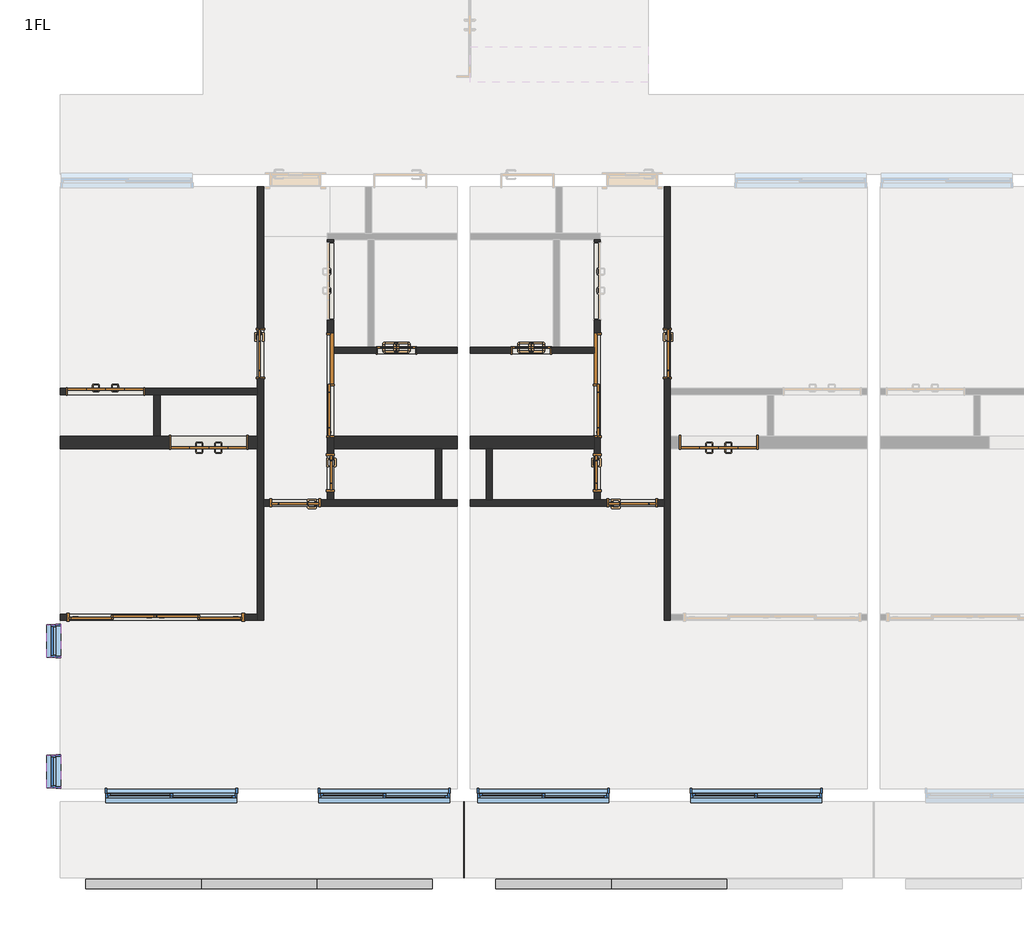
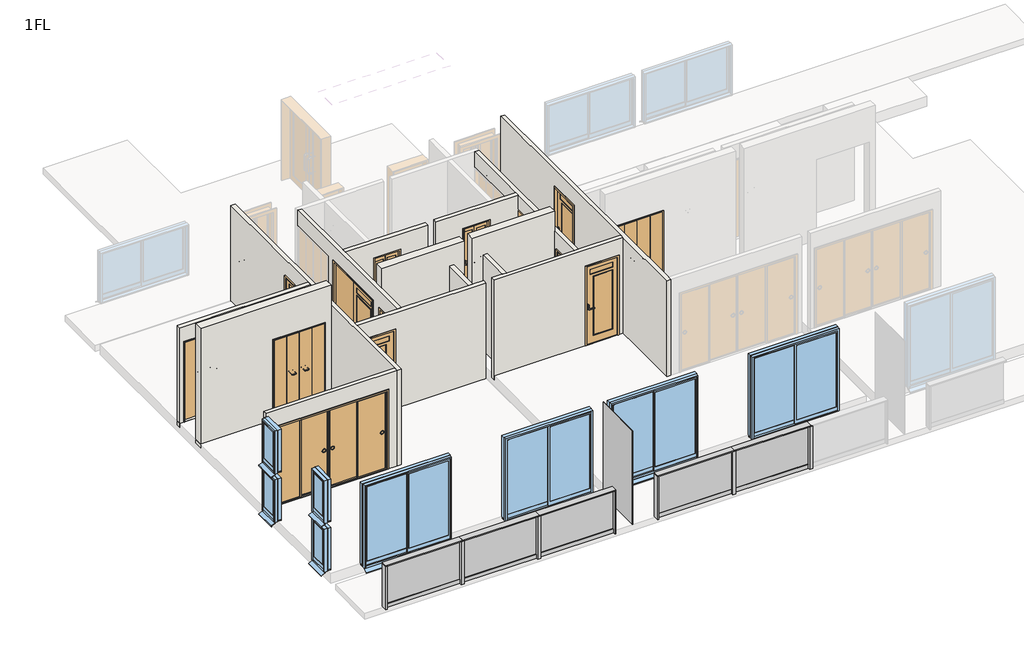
# One storey, part 1 of 3: 16 walls, 14 doors, 12 members, 8 windows, 6 plates.
"""IFC4 building model written with IfcOpenShell, lengths in millimetres."""

from ifc_helpers import new_model, si_unit, frame, origin, place, context, project, spatial, polyline, outline, extrude, faceted_brep, transform, mapped, element, save
from components import w1200h2000_6a144d60, w1200h2000_98cacc9b, w1200h2000_ebe1d490, w1600h2000_4c3c234a, w1600h2000_ca690e72, w2800h2000_670b855b, w600h2000_7f2747f4, w600h2000_6a266bef, w600h2000_94bb9c3c, w600h2000_8ea70a65, w800h2000_13e9f519, w800h2000_ccb03061, member_25x150_3f8205e2, member_25x150_f694351b, member_70x150_851c8a9b, plate_9f48129f, plate_365944b3, plate_cef4847d, window_2000x2000_f1ff98da, window_450x1000_e0a5e2da

model = new_model("IFC4")

# Units and contexts
model_context = context("Model", 3, world=origin())
ifc_project = project(units=[si_unit("LENGTHUNIT", "METRE", prefix="MILLI")], contexts=[model_context])

# Site, building, storey
site = spatial("IfcSite", under=ifc_project)
building = spatial("IfcBuilding", under=site)
storey = spatial("IfcBuildingStorey", under=building, Name="1FL", Elevation=1000.0)

# Doors
placement = place(None, origin())
w1200h2000_shape = w1200h2000_6a144d60(model_context)
element("IfcDoor", 1, ObjectType="木製折戸 : w1200h2000", at=placement, inside=storey, context=model_context, shape_type="MappedRepresentation", body=[
    mapped(w1200h2000_shape, transform((-10366.2187246, -9020.1171638, 1100.0), x_axis=(1.0, 0.0, 0.0), y_axis=(0.0, 1.0, 0.0), z_axis=(0.0, 0.0, 1.0))),
])
w1200h2000_2_shape = w1200h2000_98cacc9b(model_context)
element("IfcDoor", 2, ObjectType="木製折戸 : w1200h2000", at=placement, inside=storey, context=model_context, shape_type="MappedRepresentation", body=[
    mapped(w1200h2000_2_shape, transform((-8741.2187246, -9820.1171638, 1100.0), x_axis=(-1.0, 0.0, 0.0), y_axis=(0.0, -1.0, 0.0), z_axis=(0.0, 0.0, 1.0))),
])
w1200h2000_3_shape = w1200h2000_ebe1d490(model_context)
element("IfcDoor", 3, ObjectType="木製折戸 : w1200h2000", at=placement, inside=storey, context=model_context, shape_type="MappedRepresentation", body=[
    mapped(w1200h2000_3_shape, transform((-716.2187246, -9820.1171638, 1100.0), x_axis=(1.0, 0.0, 0.0), y_axis=(0.0, 1.0, 0.0), z_axis=(0.0, 0.0, 1.0))),
])
w1600h2000_shape = w1600h2000_4c3c234a(model_context)
element("IfcDoor", 4, ObjectType="片引戸CL2017 : w1600h2000", at=placement, inside=storey, context=model_context, shape_type="MappedRepresentation", body=[
    mapped(w1600h2000_shape, transform((-6828.7187246, -8920.1171638, 1100.0), x_axis=(0.0, -1.0, 0.0), y_axis=(1.0, 0.0, 0.0), z_axis=(0.0, 0.0, 1.0))),
])
w1600h2000_2_shape = w1600h2000_ca690e72(model_context)
element("IfcDoor", 5, ObjectType="片引戸CL2017 : w1600h2000", at=placement, inside=storey, context=model_context, shape_type="MappedRepresentation", body=[
    mapped(w1600h2000_2_shape, transform((-2628.7187246, -8920.1171638, 1100.0), x_axis=(0.0, -1.0, 0.0), y_axis=(1.0, 0.0, 0.0), z_axis=(0.0, 0.0, 1.0))),
])
w2800h2000_shape = w2800h2000_670b855b(model_context)
element("IfcDoor", 6, ObjectType="引違い 4 枚 2 溝_襖 : w2800h2000", at=placement, inside=storey, context=model_context, shape_type="MappedRepresentation", body=[
    mapped(w2800h2000_shape, transform((-9584.2542286, -12570.1171638, 1100.0), x_axis=(-1.0, 0.0, 0.0), y_axis=(0.0, -1.0, 0.0), z_axis=(0.0, 0.0, 1.0))),
])
w600h2000_shape = w600h2000_7f2747f4(model_context)
element("IfcDoor", 7, ObjectType="片開戸CL2058 : w600h2000", at=placement, inside=storey, context=model_context, shape_type="MappedRepresentation", body=[
    mapped(w600h2000_shape, transform((-6828.7187246, -10295.1171638, 1100.0), x_axis=(0.0, -1.0, 0.0), y_axis=(1.0, 0.0, 0.0), z_axis=(0.0, 0.0, 1.0))),
])
w600h2000_2_shape = w600h2000_6a266bef(model_context)
element("IfcDoor", 8, ObjectType="浴室折戸 : w600h2000", at=placement, inside=storey, context=model_context, shape_type="MappedRepresentation", body=[
    mapped(w600h2000_2_shape, transform((-5788.7187246, -8370.1171638, 1100.0), x_axis=(1.0, 0.0, 0.0), y_axis=(0.0, 1.0, 0.0), z_axis=(0.0, 0.0, 1.0))),
])
w600h2000_3_shape = w600h2000_94bb9c3c(model_context)
element("IfcDoor", 9, ObjectType="浴室折戸 : w600h2000", at=placement, inside=storey, context=model_context, shape_type="MappedRepresentation", body=[
    mapped(w600h2000_3_shape, transform((-3668.7187246, -8370.1171638, 1100.0), x_axis=(-1.0, 0.0, 0.0), y_axis=(0.0, -1.0, 0.0), z_axis=(0.0, 0.0, 1.0))),
])
w600h2000_4_shape = w600h2000_8ea70a65(model_context)
element("IfcDoor", 10, ObjectType="片開戸CL2058 : w600h2000", at=placement, inside=storey, context=model_context, shape_type="MappedRepresentation", body=[
    mapped(w600h2000_4_shape, transform((-2628.7187246, -10295.1171638, 1100.0), x_axis=(0.0, -1.0, 0.0), y_axis=(1.0, 0.0, 0.0), z_axis=(0.0, 0.0, 1.0))),
])
w800h2000_shape = w800h2000_13e9f519(model_context)
element("IfcDoor", 11, ObjectType="片開戸CL2058 : w800h2000", at=placement, inside=storey, context=model_context, shape_type="MappedRepresentation", body=[
    mapped(w800h2000_shape, transform((-7928.7187246, -8420.1171638, 1100.0), x_axis=(0.0, -1.0, 0.0), y_axis=(1.0, 0.0, 0.0), z_axis=(0.0, 0.0, 1.0))),
])
element("IfcDoor", 12, ObjectType="片開戸CL2058 : w800h2000", at=placement, inside=storey, context=model_context, shape_type="MappedRepresentation", body=[
    mapped(w800h2000_shape, transform((-2078.7187246, -10770.1171638, 1100.0), x_axis=(1.0, 0.0, 0.0), y_axis=(0.0, 1.0, 0.0), z_axis=(0.0, 0.0, 1.0))),
])
w800h2000_2_shape = w800h2000_ccb03061(model_context)
element("IfcDoor", 13, ObjectType="片開戸CL2058 : w800h2000", at=placement, inside=storey, context=model_context, shape_type="MappedRepresentation", body=[
    mapped(w800h2000_2_shape, transform((-7378.7187246, -10770.1171638, 1100.0), x_axis=(-1.0, 0.0, 0.0), y_axis=(0.0, -1.0, 0.0), z_axis=(0.0, 0.0, 1.0))),
])
element("IfcDoor", 14, ObjectType="片開戸CL2058 : w800h2000", at=placement, inside=storey, context=model_context, shape_type="MappedRepresentation", body=[
    mapped(w800h2000_2_shape, transform((-1528.7187246, -8420.1171638, 1100.0), x_axis=(0.0, -1.0, 0.0), y_axis=(1.0, 0.0, 0.0), z_axis=(0.0, 0.0, 1.0))),
])

# Members
member_25x150_shape = member_25x150_3f8205e2(model_context)
element("IfcMember", 15, ObjectType="長方形のマリオン : 25x150", at=placement, inside=storey, context=model_context, shape_type="MappedRepresentation", body=[
    mapped(member_25x150_shape, transform((-5228.7187246, -16770.1171638, 1000.0), x_axis=(1.0, 0.0, 0.0), y_axis=(0.0, -1.0, 0.0), z_axis=(0.0, 0.0, -1.0))),
])
element("IfcMember", 16, ObjectType="長方形のマリオン : 25x150", at=placement, inside=storey, context=model_context, shape_type="MappedRepresentation", body=[
    mapped(member_25x150_shape, transform((-10678.7187246, -16770.1171638, 2075.0), x_axis=(-1.0, 0.0, 0.0), y_axis=(0.0, -1.0, 0.0), z_axis=(0.0, 0.0, 1.0))),
])
element("IfcMember", 17, ObjectType="長方形のマリオン : 25x150", at=placement, inside=storey, context=model_context, shape_type="MappedRepresentation", body=[
    mapped(member_25x150_shape, transform((-4228.7187246, -16770.1171638, 2075.0), x_axis=(-1.0, 0.0, 0.0), y_axis=(0.0, -1.0, 0.0), z_axis=(0.0, 0.0, 1.0))),
])
member_25x150_2_shape = member_25x150_f694351b(model_context)
element("IfcMember", 18, ObjectType="長方形のマリオン : 25x150", at=placement, inside=storey, context=model_context, shape_type="MappedRepresentation", body=[
    mapped(member_25x150_2_shape, transform((-5228.7187246, -16770.1171638, 2100.0), x_axis=(0.0, 0.0, 1.0), y_axis=(0.0, -1.0, 0.0), z_axis=(1.0, 0.0, 0.0))),
])
element("IfcMember", 19, ObjectType="長方形のマリオン : 25x150", at=placement, inside=storey, context=model_context, shape_type="MappedRepresentation", body=[
    mapped(member_25x150_2_shape, transform((-8862.052058, -16770.1171638, 2100.0), x_axis=(0.0, 0.0, 1.0), y_axis=(0.0, -1.0, 0.0), z_axis=(1.0, 0.0, 0.0))),
])
element("IfcMember", 20, ObjectType="長方形のマリオン : 25x150", at=placement, inside=storey, context=model_context, shape_type="MappedRepresentation", body=[
    mapped(member_25x150_2_shape, transform((-2412.052058, -16770.1171638, 2100.0), x_axis=(0.0, 0.0, 1.0), y_axis=(0.0, -1.0, 0.0), z_axis=(1.0, 0.0, 0.0))),
])
element("IfcMember", 21, ObjectType="長方形のマリオン : 25x150", at=placement, inside=storey, context=model_context, shape_type="MappedRepresentation", body=[
    mapped(member_25x150_2_shape, transform((-7045.3853913, -16770.1171638, 2100.0), x_axis=(0.0, 0.0, 1.0), y_axis=(0.0, -1.0, 0.0), z_axis=(1.0, 0.0, 0.0))),
])
element("IfcMember", 22, ObjectType="長方形のマリオン : 25x150", at=placement, inside=storey, context=model_context, shape_type="MappedRepresentation", body=[
    mapped(member_25x150_2_shape, transform((-595.3853913, -16770.1171638, 2100.0), x_axis=(0.0, 0.0, 1.0), y_axis=(0.0, -1.0, 0.0), z_axis=(1.0, 0.0, 0.0))),
])
member_70x150_shape = member_70x150_851c8a9b(model_context)
element("IfcMember", 23, ObjectType="長方形のマリオン : 70x150", at=placement, inside=storey, context=model_context, shape_type="MappedRepresentation", body=[
    mapped(member_70x150_shape, transform((-8862.052058, -16770.1171638, 1000.0), x_axis=(1.0, 0.0, 0.0), y_axis=(0.0, -1.0, 0.0), z_axis=(0.0, 0.0, -1.0))),
])
element("IfcMember", 24, ObjectType="長方形のマリオン : 70x150", at=placement, inside=storey, context=model_context, shape_type="MappedRepresentation", body=[
    mapped(member_70x150_shape, transform((-7045.3853913, -16770.1171638, 1000.0), x_axis=(1.0, 0.0, 0.0), y_axis=(0.0, -1.0, 0.0), z_axis=(0.0, 0.0, -1.0))),
])
element("IfcMember", 25, ObjectType="長方形のマリオン : 70x150", at=placement, inside=storey, context=model_context, shape_type="MappedRepresentation", body=[
    mapped(member_70x150_shape, transform((-2412.052058, -16770.1171638, 1000.0), x_axis=(1.0, 0.0, 0.0), y_axis=(0.0, -1.0, 0.0), z_axis=(0.0, 0.0, -1.0))),
])
element("IfcMember", 26, ObjectType="長方形のマリオン : 70x150", at=placement, inside=storey, context=model_context, shape_type="MappedRepresentation", body=[
    mapped(member_70x150_shape, transform((-595.3853913, -16770.1171638, 1000.0), x_axis=(1.0, 0.0, 0.0), y_axis=(0.0, -1.0, 0.0), z_axis=(0.0, 0.0, -1.0))),
])

# Plates
plate_shape = plate_9f48129f(model_context)
element("IfcPlate", 27, ObjectType="r パネル FIX 下框付 : 框 H100", at=placement, inside=storey, context=model_context, shape_type="MappedRepresentation", body=[
    mapped(plate_shape, transform((-9775.3853913, -16770.1171638, 1000.0), x_axis=(1.0, 0.0, 0.0), y_axis=(0.0, 1.0, 0.0), z_axis=(0.0, 0.0, 1.0))),
])
element("IfcPlate", 28, ObjectType="r パネル FIX 下框付 : 框 H100", at=placement, inside=storey, context=model_context, shape_type="MappedRepresentation", body=[
    mapped(plate_shape, transform((-6132.052058, -16770.1171638, 1000.0), x_axis=(1.0, 0.0, 0.0), y_axis=(0.0, 1.0, 0.0), z_axis=(0.0, 0.0, 1.0))),
])
element("IfcPlate", 29, ObjectType="r パネル FIX 下框付 : 框 H100", at=placement, inside=storey, context=model_context, shape_type="MappedRepresentation", body=[
    mapped(plate_shape, transform((-3325.3853913, -16770.1171638, 1000.0), x_axis=(1.0, 0.0, 0.0), y_axis=(0.0, 1.0, 0.0), z_axis=(0.0, 0.0, 1.0))),
])
plate_2_shape = plate_365944b3(model_context)
element("IfcPlate", 30, ObjectType="r パネル FIX 下框付 : 框 H100", at=placement, inside=storey, context=model_context, shape_type="MappedRepresentation", body=[
    mapped(plate_2_shape, transform((-7953.7187246, -16770.1171638, 1000.0), x_axis=(1.0, 0.0, 0.0), y_axis=(0.0, 1.0, 0.0), z_axis=(0.0, 0.0, 1.0))),
])
element("IfcPlate", 31, ObjectType="r パネル FIX 下框付 : 框 H100", at=placement, inside=storey, context=model_context, shape_type="MappedRepresentation", body=[
    mapped(plate_2_shape, transform((-1503.7187246, -16770.1171638, 1000.0), x_axis=(1.0, 0.0, 0.0), y_axis=(0.0, 1.0, 0.0), z_axis=(0.0, 0.0, 1.0))),
])
plate_3_shape = plate_cef4847d(model_context)
element("IfcPlate", 32, ObjectType="システム パネル : 標準", at=placement, inside=storey, context=model_context, shape_type="MappedRepresentation", body=[
    mapped(plate_3_shape, transform((-4728.7187246, -16070.1171638, 950.0), x_axis=(0.0, -1.0, 0.0), y_axis=(1.0, 0.0, 0.0), z_axis=(0.0, 0.0, 1.0))),
])

# Walls
element("IfcWall", 33, ObjectType="(R)RC200", at=placement, inside=storey, context=model_context, shape_type="Brep", body=[
    faceted_brep([(-11078.7187246, -9920.1171638, 1000.0), (-7978.7187246, -9920.1171638, 1000.0), (-7978.7187246, -9920.1171638, 4000.0), (-11078.7187246, -9920.1171638, 4000.0), (-9361.2187246, -9920.1171638, 3120.0), (-8121.2187246, -9920.1171638, 3120.0), (-8121.2187246, -9920.1171638, 1100.0), (-9361.2187246, -9920.1171638, 1100.0), (-11078.7187246, -9720.1171638, 1000.0), (-11078.7187246, -9720.1171638, 4000.0), (-7978.7187246, -9720.1171638, 4000.0), (-7978.7187246, -9720.1171638, 1000.0), (-9503.7187246, -9720.1171638, 1000.0), (-9603.7187246, -9720.1171638, 1000.0), (-9361.2187246, -9720.1171638, 3120.0), (-9361.2187246, -9720.1171638, 1100.0), (-8121.2187246, -9720.1171638, 1100.0), (-8121.2187246, -9720.1171638, 3120.0)], [[[0, 1, 2, 3], [4, 5, 6, 7]], [[8, 9, 10, 11, 12, 13], [14, 15, 16, 17]], [[1, 0, 8, 13, 12, 11]], [[3, 2, 10, 9]], [[0, 3, 9, 8]], [[2, 1, 11, 10]], [[15, 14, 4, 7]], [[16, 15, 7, 6]], [[17, 16, 6, 5]], [[14, 17, 5, 4]]]),
])
element("IfcWall", 34, ObjectType="(R)RC200", at=placement, inside=storey, context=model_context, shape_type="Brep", body=[
    faceted_brep([(-6778.7187246, -9920.1171638, 1000.0), (-5178.7187246, -9920.1171638, 1000.0), (-5078.7187246, -9920.1171638, 1000.0), (-4828.7187246, -9920.1171638, 1000.0), (-4828.7187246, -9920.1171638, 4000.0), (-6778.7187246, -9920.1171638, 4000.0), (-6778.7187246, -9720.1171638, 1000.0), (-6778.7187246, -9720.1171638, 4000.0), (-4828.7187246, -9720.1171638, 4000.0), (-4828.7187246, -9720.1171638, 1000.0)], [[[0, 1, 2, 3, 4, 5]], [[6, 7, 8, 9]], [[3, 2, 1, 0, 6, 9]], [[5, 4, 8, 7]], [[4, 3, 9, 8]], [[0, 5, 7, 6]]]),
])
element("IfcWall", 35, ObjectType="(R)RC200", at=placement, inside=storey, context=model_context, shape_type="Brep", body=[
    faceted_brep([(-2678.7187246, -9720.1171638, 1000.0), (-4628.7187246, -9720.1171638, 1000.0), (-4628.7187246, -9720.1171638, 4000.0), (-2678.7187246, -9720.1171638, 4000.0), (-2678.7187246, -9920.1171638, 1000.0), (-2678.7187246, -9920.1171638, 4000.0), (-4628.7187246, -9920.1171638, 4000.0), (-4628.7187246, -9920.1171638, 1000.0), (-4378.7187246, -9920.1171638, 1000.0), (-4278.7187246, -9920.1171638, 1000.0)], [[[0, 1, 2, 3]], [[4, 5, 6, 7, 8, 9]], [[1, 0, 4, 9, 8, 7]], [[3, 2, 6, 5]], [[0, 3, 5, 4]], [[2, 1, 7, 6]]]),
])
element("IfcWall", 36, ObjectType="(L1)LGS100", at=placement, inside=storey, context=model_context, shape_type="Brep", body=[
    faceted_brep([(-11078.7187246, -9070.1171638, 1000.0), (-9603.7187246, -9070.1171638, 1000.0), (-9503.7187246, -9070.1171638, 1000.0), (-7978.7187246, -9070.1171638, 1000.0), (-7978.7187246, -9070.1171638, 3500.0), (-9503.7187246, -9070.1171638, 3500.0), (-9603.7187246, -9070.1171638, 3500.0), (-11078.7187246, -9070.1171638, 3500.0), (-9746.2187246, -9070.1171638, 3120.0), (-9746.2187246, -9070.1171638, 1100.0), (-10986.2187246, -9070.1171638, 1100.0), (-10986.2187246, -9070.1171638, 3120.0), (-7978.7187246, -8970.1171638, 1000.0), (-11078.7187246, -8970.1171638, 1000.0), (-11078.7187246, -8970.1171638, 3500.0), (-7978.7187246, -8970.1171638, 3500.0), (-9746.2187246, -8970.1171638, 1100.0), (-9746.2187246, -8970.1171638, 3120.0), (-10986.2187246, -8970.1171638, 3120.0), (-10986.2187246, -8970.1171638, 1100.0)], [[[0, 1, 2, 3, 4, 5, 6, 7], [8, 9, 10, 11]], [[12, 13, 14, 15], [16, 17, 18, 19]], [[3, 2, 1, 0, 13, 12]], [[7, 6, 5, 4, 15, 14]], [[0, 7, 14, 13]], [[4, 3, 12, 15]], [[8, 17, 16, 9]], [[9, 16, 19, 10]], [[17, 8, 11, 18]], [[18, 11, 10, 19]]]),
])
element("IfcWall", 37, ObjectType="(L1)LGS100", at=placement, inside=storey, context=model_context, shape_type="SweptSolid", body=[
    extrude(outline(polyline([(-9503.7187246, -9070.1171638), (-9503.7187246, -9720.1171638), (-9603.7187246, -9720.1171638), (-9603.7187246, -9070.1171638), (-9503.7187246, -9070.1171638)])), frame((0.0, 0.0, 1000.0), z_axis=(0.0, 0.0, 1.0), x_axis=(1.0, 0.0, 0.0)), (0.0, 0.0, 1.0), 2500.0),
])
element("IfcWall", 38, ObjectType="(L1)LGS100", at=placement, inside=storey, context=model_context, shape_type="Brep", body=[
    faceted_brep([(-7878.7187246, -12620.1171638, 1000.0), (-7878.7187246, -10820.1171638, 1000.0), (-7878.7187246, -10720.1171638, 1000.0), (-7878.7187246, -5800.1171638, 1000.0), (-7878.7187246, -5800.1171638, 3500.0), (-7878.7187246, -10720.1171638, 3500.0), (-7878.7187246, -10820.1171638, 3500.0), (-7878.7187246, -12620.1171638, 3500.0), (-7878.7187246, -8820.1171638, 1100.0), (-7878.7187246, -8820.1171638, 3100.0), (-7878.7187246, -8020.1171638, 3100.0), (-7878.7187246, -8020.1171638, 1100.0), (-7978.7187246, -12620.1171638, 1000.0), (-7978.7187246, -12620.1171638, 3500.0), (-7978.7187246, -12520.1171638, 3500.0), (-7978.7187246, -9070.1171638, 3500.0), (-7978.7187246, -8970.1171638, 3500.0), (-7978.7187246, -5800.1171638, 3500.0), (-7978.7187246, -5800.1171638, 1000.0), (-7978.7187246, -8970.1171638, 1000.0), (-7978.7187246, -9070.1171638, 1000.0), (-7978.7187246, -9720.1171638, 1000.0), (-7978.7187246, -9920.1171638, 1000.0), (-7978.7187246, -12520.1171638, 1000.0), (-7978.7187246, -8820.1171638, 1100.0), (-7978.7187246, -8020.1171638, 1100.0), (-7978.7187246, -8020.1171638, 3100.0), (-7978.7187246, -8820.1171638, 3100.0)], [[[0, 1, 2, 3, 4, 5, 6, 7], [8, 9, 10, 11]], [[12, 13, 14, 15, 16, 17, 18, 19, 20, 21, 22, 23], [24, 25, 26, 27]], [[3, 2, 1, 0, 12, 23, 22, 21, 20, 19, 18]], [[7, 6, 5, 4, 17, 16, 15, 14, 13]], [[4, 3, 18, 17]], [[0, 7, 13, 12]], [[9, 8, 24, 27]], [[10, 9, 27, 26]], [[11, 10, 26, 25]], [[8, 11, 25, 24]]]),
])
element("IfcWall", 39, ObjectType="(L1)LGS100", at=placement, inside=storey, context=model_context, shape_type="Brep", body=[
    faceted_brep([(-6778.7187246, -8420.1171638, 1000.0), (-4828.7187246, -8420.1171638, 1000.0), (-4828.7187246, -8420.1171638, 3500.0), (-6778.7187246, -8420.1171638, 3500.0), (-5468.7187246, -8420.1171638, 3120.0), (-5468.7187246, -8420.1171638, 1100.0), (-6108.7187246, -8420.1171638, 1100.0), (-6108.7187246, -8420.1171638, 3120.0), (-6778.7187246, -8320.1171638, 1000.0), (-6778.7187246, -8320.1171638, 3500.0), (-6238.7187246, -8320.1171638, 3500.0), (-6138.7187246, -8320.1171638, 3500.0), (-4828.7187246, -8320.1171638, 3500.0), (-4828.7187246, -8320.1171638, 1000.0), (-6138.7187246, -8320.1171638, 1000.0), (-6238.7187246, -8320.1171638, 1000.0), (-5468.7187246, -8320.1171638, 3120.0), (-6108.7187246, -8320.1171638, 3120.0), (-6108.7187246, -8320.1171638, 1100.0), (-5468.7187246, -8320.1171638, 1100.0)], [[[0, 1, 2, 3], [4, 5, 6, 7]], [[8, 9, 10, 11, 12, 13, 14, 15], [16, 17, 18, 19]], [[1, 0, 8, 15, 14, 13]], [[3, 2, 12, 11, 10, 9]], [[2, 1, 13, 12]], [[0, 3, 9, 8]], [[5, 4, 16, 19]], [[6, 5, 19, 18]], [[7, 6, 18, 17]], [[4, 7, 17, 16]]]),
])
element("IfcWall", 40, ObjectType="(L1)LGS100", at=placement, inside=storey, context=model_context, shape_type="Brep", body=[
    faceted_brep([(-6778.7187246, -10720.1171638, 1000.0), (-6778.7187246, -9920.1171638, 1000.0), (-6778.7187246, -9720.1171638, 1000.0), (-6778.7187246, -8420.1171638, 1000.0), (-6778.7187246, -8320.1171638, 1000.0), (-6778.7187246, -6630.1171638, 1000.0), (-6778.7187246, -6630.1171638, 3500.0), (-6778.7187246, -8320.1171638, 3500.0), (-6778.7187246, -8420.1171638, 3500.0), (-6778.7187246, -10720.1171638, 3500.0), (-6778.7187246, -10595.1171638, 1100.0), (-6778.7187246, -10595.1171638, 3100.0), (-6778.7187246, -9995.1171638, 3100.0), (-6778.7187246, -9995.1171638, 1100.0), (-6778.7187246, -6660.1171638, 1100.0), (-6778.7187246, -7900.1171638, 1100.0), (-6778.7187246, -7900.1171638, 3120.0), (-6778.7187246, -6660.1171638, 3120.0), (-6778.7187246, -9745.1171638, 1100.0), (-6778.7187246, -9745.1171638, 3140.0), (-6778.7187246, -8095.1171638, 3140.0), (-6778.7187246, -8095.1171638, 1100.0), (-6878.7187246, -6630.1171638, 1000.0), (-6878.7187246, -10720.1171638, 1000.0), (-6878.7187246, -10720.1171638, 3500.0), (-6878.7187246, -6630.1171638, 3500.0), (-6878.7187246, -10595.1171638, 1100.0), (-6878.7187246, -9995.1171638, 1100.0), (-6878.7187246, -9995.1171638, 3100.0), (-6878.7187246, -10595.1171638, 3100.0), (-6878.7187246, -7900.1171638, 1100.0), (-6878.7187246, -6660.1171638, 1100.0), (-6878.7187246, -6660.1171638, 3120.0), (-6878.7187246, -7900.1171638, 3120.0), (-6878.7187246, -9745.1171638, 1100.0), (-6878.7187246, -8095.1171638, 1100.0), (-6878.7187246, -8095.1171638, 3140.0), (-6878.7187246, -9745.1171638, 3140.0)], [[[0, 1, 2, 3, 4, 5, 6, 7, 8, 9], [10, 11, 12, 13], [14, 15, 16, 17], [18, 19, 20, 21]], [[22, 23, 24, 25], [26, 27, 28, 29], [30, 31, 32, 33], [34, 35, 36, 37]], [[5, 4, 3, 2, 1, 0, 23, 22]], [[9, 8, 7, 6, 25, 24]], [[0, 9, 24, 23]], [[6, 5, 22, 25]], [[11, 10, 26, 29]], [[12, 11, 29, 28]], [[13, 12, 28, 27]], [[10, 13, 27, 26]], [[14, 31, 30, 15]], [[15, 30, 33, 16]], [[16, 33, 32, 17]], [[19, 18, 34, 37]], [[20, 19, 37, 36]], [[21, 20, 36, 35]], [[18, 21, 35, 34]], [[31, 14, 17, 32]]]),
])
element("IfcWall", 41, ObjectType="(L1)LGS100", at=placement, inside=storey, context=model_context, shape_type="SweptSolid", body=[
    extrude(outline(polyline([(-5078.7187246, -9920.1171638), (-5078.7187246, -10720.1171638), (-5178.7187246, -10720.1171638), (-5178.7187246, -9920.1171638), (-5078.7187246, -9920.1171638)])), frame((0.0, 0.0, 1000.0), z_axis=(0.0, 0.0, 1.0), x_axis=(1.0, 0.0, 0.0)), (0.0, 0.0, 1.0), 2500.0),
])
element("IfcWall", 42, ObjectType="(L1)LGS100", at=placement, inside=storey, context=model_context, shape_type="Brep", body=[
    faceted_brep([(-7878.7187246, -10820.1171638, 1000.0), (-4828.7187246, -10820.1171638, 1000.0), (-4828.7187246, -10820.1171638, 3500.0), (-7878.7187246, -10820.1171638, 3500.0), (-7778.7187246, -10820.1171638, 1100.0), (-7778.7187246, -10820.1171638, 3100.0), (-6978.7187246, -10820.1171638, 3100.0), (-6978.7187246, -10820.1171638, 1100.0), (-4828.7187246, -10720.1171638, 1000.0), (-5078.7187246, -10720.1171638, 1000.0), (-5178.7187246, -10720.1171638, 1000.0), (-6778.7187246, -10720.1171638, 1000.0), (-6878.7187246, -10720.1171638, 1000.0), (-7878.7187246, -10720.1171638, 1000.0), (-7878.7187246, -10720.1171638, 3500.0), (-6878.7187246, -10720.1171638, 3500.0), (-6778.7187246, -10720.1171638, 3500.0), (-5178.7187246, -10720.1171638, 3500.0), (-5078.7187246, -10720.1171638, 3500.0), (-4828.7187246, -10720.1171638, 3500.0), (-7778.7187246, -10720.1171638, 3100.0), (-7778.7187246, -10720.1171638, 1100.0), (-6978.7187246, -10720.1171638, 1100.0), (-6978.7187246, -10720.1171638, 3100.0)], [[[0, 1, 2, 3], [4, 5, 6, 7]], [[8, 9, 10, 11, 12, 13, 14, 15, 16, 17, 18, 19], [20, 21, 22, 23]], [[1, 0, 13, 12, 11, 10, 9, 8]], [[3, 2, 19, 18, 17, 16, 15, 14]], [[2, 1, 8, 19]], [[0, 3, 14, 13]], [[4, 21, 20, 5]], [[5, 20, 23, 6]], [[6, 23, 22, 7]], [[21, 4, 7, 22]]]),
])
element("IfcWall", 43, ObjectType="(L1)LGS100", at=placement, inside=storey, context=model_context, shape_type="SweptSolid", body=[
    extrude(outline(polyline([(1000.0, -11078.7187246), (1000.0, -7978.7187246), (3500.0, -7978.7187246), (3500.0, -11078.7187246), (1000.0, -11078.7187246)]), holes=[polyline([(3100.0, -10978.7187246), (3100.0, -8178.7187246), (1100.0, -8178.7187246), (1100.0, -10978.7187246), (3100.0, -10978.7187246)])]), frame((0.0, -12620.1171638, 0.0), z_axis=(0.0, 1.0, 0.0), x_axis=(0.0, 0.0, 1.0)), (0.0, 0.0, 1.0), 100.0),
])
element("IfcWall", 44, ObjectType="(L1)LGS100", at=placement, inside=storey, context=model_context, shape_type="Brep", body=[
    faceted_brep([(-1478.7187246, -12620.1171638, 1000.0), (-1478.7187246, -12520.1171638, 1000.0), (-1478.7187246, -9920.1171638, 1000.0), (-1478.7187246, -9720.1171638, 1000.0), (-1478.7187246, -9070.1171638, 1000.0), (-1478.7187246, -8970.1171638, 1000.0), (-1478.7187246, -5800.1171638, 1000.0), (-1478.7187246, -5800.1171638, 3500.0), (-1478.7187246, -8970.1171638, 3500.0), (-1478.7187246, -9070.1171638, 3500.0), (-1478.7187246, -12520.1171638, 3500.0), (-1478.7187246, -12620.1171638, 3500.0), (-1478.7187246, -8820.1171638, 1100.0), (-1478.7187246, -8820.1171638, 3100.0), (-1478.7187246, -8020.1171638, 3100.0), (-1478.7187246, -8020.1171638, 1100.0), (-1578.7187246, -12620.1171638, 1000.0), (-1578.7187246, -12620.1171638, 3500.0), (-1578.7187246, -10820.1171638, 3500.0), (-1578.7187246, -10720.1171638, 3500.0), (-1578.7187246, -5800.1171638, 3500.0), (-1578.7187246, -5800.1171638, 1000.0), (-1578.7187246, -10720.1171638, 1000.0), (-1578.7187246, -10820.1171638, 1000.0), (-1578.7187246, -8820.1171638, 1100.0), (-1578.7187246, -8020.1171638, 1100.0), (-1578.7187246, -8020.1171638, 3100.0), (-1578.7187246, -8820.1171638, 3100.0)], [[[0, 1, 2, 3, 4, 5, 6, 7, 8, 9, 10, 11], [12, 13, 14, 15]], [[16, 17, 18, 19, 20, 21, 22, 23], [24, 25, 26, 27]], [[6, 5, 4, 3, 2, 1, 0, 16, 23, 22, 21]], [[11, 10, 9, 8, 7, 20, 19, 18, 17]], [[0, 11, 17, 16]], [[13, 12, 24, 27]], [[14, 13, 27, 26]], [[15, 14, 26, 25]], [[12, 15, 25, 24]], [[7, 6, 21, 20]]]),
])
element("IfcWall", 45, ObjectType="(L1)LGS100", at=placement, inside=storey, context=model_context, shape_type="Brep", body=[
    faceted_brep([(-2678.7187246, -8320.1171638, 1000.0), (-3218.7187246, -8320.1171638, 1000.0), (-3318.7187246, -8320.1171638, 1000.0), (-4628.7187246, -8320.1171638, 1000.0), (-4628.7187246, -8320.1171638, 3500.0), (-3318.7187246, -8320.1171638, 3500.0), (-3218.7187246, -8320.1171638, 3500.0), (-2678.7187246, -8320.1171638, 3500.0), (-3988.7187246, -8320.1171638, 3120.0), (-3988.7187246, -8320.1171638, 1100.0), (-3348.7187246, -8320.1171638, 1100.0), (-3348.7187246, -8320.1171638, 3120.0), (-2678.7187246, -8420.1171638, 1000.0), (-2678.7187246, -8420.1171638, 3500.0), (-4628.7187246, -8420.1171638, 3500.0), (-4628.7187246, -8420.1171638, 1000.0), (-3988.7187246, -8420.1171638, 3120.0), (-3348.7187246, -8420.1171638, 3120.0), (-3348.7187246, -8420.1171638, 1100.0), (-3988.7187246, -8420.1171638, 1100.0)], [[[0, 1, 2, 3, 4, 5, 6, 7], [8, 9, 10, 11]], [[12, 13, 14, 15], [16, 17, 18, 19]], [[3, 2, 1, 0, 12, 15]], [[7, 6, 5, 4, 14, 13]], [[0, 7, 13, 12]], [[9, 8, 16, 19]], [[10, 9, 19, 18]], [[11, 10, 18, 17]], [[8, 11, 17, 16]], [[4, 3, 15, 14]]]),
])
element("IfcWall", 46, ObjectType="(L1)LGS100", at=placement, inside=storey, context=model_context, shape_type="Brep", body=[
    faceted_brep([(-2578.7187246, -10720.1171638, 1000.0), (-2578.7187246, -6630.1171638, 1000.0), (-2578.7187246, -6630.1171638, 3500.0), (-2578.7187246, -10720.1171638, 3500.0), (-2578.7187246, -10595.1171638, 1100.0), (-2578.7187246, -10595.1171638, 3100.0), (-2578.7187246, -9995.1171638, 3100.0), (-2578.7187246, -9995.1171638, 1100.0), (-2578.7187246, -6660.1171638, 1100.0), (-2578.7187246, -7900.1171638, 1100.0), (-2578.7187246, -7900.1171638, 3120.0), (-2578.7187246, -6660.1171638, 3120.0), (-2578.7187246, -9745.1171638, 1100.0), (-2578.7187246, -9745.1171638, 3140.0), (-2578.7187246, -8095.1171638, 3140.0), (-2578.7187246, -8095.1171638, 1100.0), (-2678.7187246, -6630.1171638, 1000.0), (-2678.7187246, -8320.1171638, 1000.0), (-2678.7187246, -8420.1171638, 1000.0), (-2678.7187246, -9720.1171638, 1000.0), (-2678.7187246, -9920.1171638, 1000.0), (-2678.7187246, -10720.1171638, 1000.0), (-2678.7187246, -10720.1171638, 3500.0), (-2678.7187246, -8420.1171638, 3500.0), (-2678.7187246, -8320.1171638, 3500.0), (-2678.7187246, -6630.1171638, 3500.0), (-2678.7187246, -10595.1171638, 1100.0), (-2678.7187246, -9995.1171638, 1100.0), (-2678.7187246, -9995.1171638, 3100.0), (-2678.7187246, -10595.1171638, 3100.0), (-2678.7187246, -7900.1171638, 1100.0), (-2678.7187246, -6660.1171638, 1100.0), (-2678.7187246, -6660.1171638, 3120.0), (-2678.7187246, -7900.1171638, 3120.0), (-2678.7187246, -9745.1171638, 1100.0), (-2678.7187246, -8095.1171638, 1100.0), (-2678.7187246, -8095.1171638, 3140.0), (-2678.7187246, -9745.1171638, 3140.0)], [[[0, 1, 2, 3], [4, 5, 6, 7], [8, 9, 10, 11], [12, 13, 14, 15]], [[16, 17, 18, 19, 20, 21, 22, 23, 24, 25], [26, 27, 28, 29], [30, 31, 32, 33], [34, 35, 36, 37]], [[1, 0, 21, 20, 19, 18, 17, 16]], [[3, 2, 25, 24, 23, 22]], [[0, 3, 22, 21]], [[5, 4, 26, 29]], [[6, 5, 29, 28]], [[7, 6, 28, 27]], [[4, 7, 27, 26]], [[8, 31, 30, 9]], [[9, 30, 33, 10]], [[10, 33, 32, 11]], [[13, 12, 34, 37]], [[14, 13, 37, 36]], [[15, 14, 36, 35]], [[12, 15, 35, 34]], [[31, 8, 11, 32]], [[2, 1, 16, 25]]]),
])
element("IfcWall", 47, ObjectType="(L1)LGS100", at=placement, inside=storey, context=model_context, shape_type="SweptSolid", body=[
    extrude(outline(polyline([(-4278.7187246, -9920.1171638), (-4278.7187246, -10720.1171638), (-4378.7187246, -10720.1171638), (-4378.7187246, -9920.1171638), (-4278.7187246, -9920.1171638)])), frame((0.0, 0.0, 1000.0), z_axis=(0.0, 0.0, 1.0), x_axis=(1.0, 0.0, 0.0)), (0.0, 0.0, 1.0), 2500.0),
])
element("IfcWall", 48, ObjectType="(L1)LGS100", at=placement, inside=storey, context=model_context, shape_type="Brep", body=[
    faceted_brep([(-1578.7187246, -10720.1171638, 1000.0), (-2578.7187246, -10720.1171638, 1000.0), (-2678.7187246, -10720.1171638, 1000.0), (-4278.7187246, -10720.1171638, 1000.0), (-4378.7187246, -10720.1171638, 1000.0), (-4628.7187246, -10720.1171638, 1000.0), (-4628.7187246, -10720.1171638, 3500.0), (-4378.7187246, -10720.1171638, 3500.0), (-4278.7187246, -10720.1171638, 3500.0), (-2678.7187246, -10720.1171638, 3500.0), (-2578.7187246, -10720.1171638, 3500.0), (-1578.7187246, -10720.1171638, 3500.0), (-1678.7187246, -10720.1171638, 1100.0), (-1678.7187246, -10720.1171638, 3100.0), (-2478.7187246, -10720.1171638, 3100.0), (-2478.7187246, -10720.1171638, 1100.0), (-4628.7187246, -10820.1171638, 1000.0), (-1578.7187246, -10820.1171638, 1000.0), (-1578.7187246, -10820.1171638, 3500.0), (-4628.7187246, -10820.1171638, 3500.0), (-1678.7187246, -10820.1171638, 3100.0), (-1678.7187246, -10820.1171638, 1100.0), (-2478.7187246, -10820.1171638, 1100.0), (-2478.7187246, -10820.1171638, 3100.0)], [[[0, 1, 2, 3, 4, 5, 6, 7, 8, 9, 10, 11], [12, 13, 14, 15]], [[16, 17, 18, 19], [20, 21, 22, 23]], [[5, 4, 3, 2, 1, 0, 17, 16]], [[11, 10, 9, 8, 7, 6, 19, 18]], [[0, 11, 18, 17]], [[12, 21, 20, 13]], [[13, 20, 23, 14]], [[14, 23, 22, 15]], [[21, 12, 15, 22]], [[6, 5, 16, 19]]]),
])

# Windows
window_2000x2000_shape = window_2000x2000_f1ff98da(model_context)
element("IfcWindow", 49, ObjectType="鋼製_一般枠_引違い-二枚 : 2000x2000", at=placement, inside=storey, context=model_context, shape_type="MappedRepresentation", body=[
    mapped(window_2000x2000_shape, transform((-9328.7187246, -15370.1171638, 200.0), x_axis=(-1.0, 0.0, 0.0), y_axis=(0.0, -1.0, 0.0), z_axis=(0.0, 0.0, 1.0))),
])
element("IfcWindow", 50, ObjectType="鋼製_一般枠_引違い-二枚 : 2000x2000", at=placement, inside=storey, context=model_context, shape_type="MappedRepresentation", body=[
    mapped(window_2000x2000_shape, transform((-5978.7187246, -15370.1171638, 200.0), x_axis=(-1.0, 0.0, 0.0), y_axis=(0.0, -1.0, 0.0), z_axis=(0.0, 0.0, 1.0))),
])
element("IfcWindow", 51, ObjectType="鋼製_一般枠_引違い-二枚 : 2000x2000", at=placement, inside=storey, context=model_context, shape_type="MappedRepresentation", body=[
    mapped(window_2000x2000_shape, transform((-128.7187246, -15370.1171638, 200.0), x_axis=(-1.0, 0.0, 0.0), y_axis=(0.0, -1.0, 0.0), z_axis=(0.0, 0.0, 1.0))),
])
element("IfcWindow", 52, ObjectType="鋼製_一般枠_引違い-二枚 : 2000x2000", at=placement, inside=storey, context=model_context, shape_type="MappedRepresentation", body=[
    mapped(window_2000x2000_shape, transform((-3478.7187246, -15370.1171638, 200.0), x_axis=(-1.0, 0.0, 0.0), y_axis=(0.0, -1.0, 0.0), z_axis=(0.0, 0.0, 1.0))),
])
window_450x1000_shape = window_450x1000_e0a5e2da(model_context)
element("IfcWindow", 53, ObjectType="鋼製_一般枠_嵌殺し : 450x1000", at=placement, inside=storey, context=model_context, shape_type="MappedRepresentation", body=[
    mapped(window_450x1000_shape, transform((-11178.7187246, -14995.1171638, 10.0), x_axis=(0.0, 1.0, 0.0), y_axis=(-1.0, 0.0, 0.0), z_axis=(0.0, 0.0, 1.0))),
])
element("IfcWindow", 54, ObjectType="鋼製_一般枠_嵌殺し : 450x1000", at=placement, inside=storey, context=model_context, shape_type="MappedRepresentation", body=[
    mapped(window_450x1000_shape, transform((-11178.7187246, -12945.1171638, 10.0), x_axis=(0.0, 1.0, 0.0), y_axis=(-1.0, 0.0, 0.0), z_axis=(0.0, 0.0, 1.0))),
])
element("IfcWindow", 55, ObjectType="鋼製_一般枠_嵌殺し : 450x1000", at=placement, inside=storey, context=model_context, shape_type="MappedRepresentation", body=[
    mapped(window_450x1000_shape, transform((-11178.7187246, -14995.1171638, 1230.0), x_axis=(0.0, 1.0, 0.0), y_axis=(-1.0, 0.0, 0.0), z_axis=(0.0, 0.0, 1.0))),
])
element("IfcWindow", 56, ObjectType="鋼製_一般枠_嵌殺し : 450x1000", at=placement, inside=storey, context=model_context, shape_type="MappedRepresentation", body=[
    mapped(window_450x1000_shape, transform((-11178.7187246, -12945.1171638, 1230.0), x_axis=(0.0, 1.0, 0.0), y_axis=(-1.0, 0.0, 0.0), z_axis=(0.0, 0.0, 1.0))),
])

save(model, "model.ifc")
